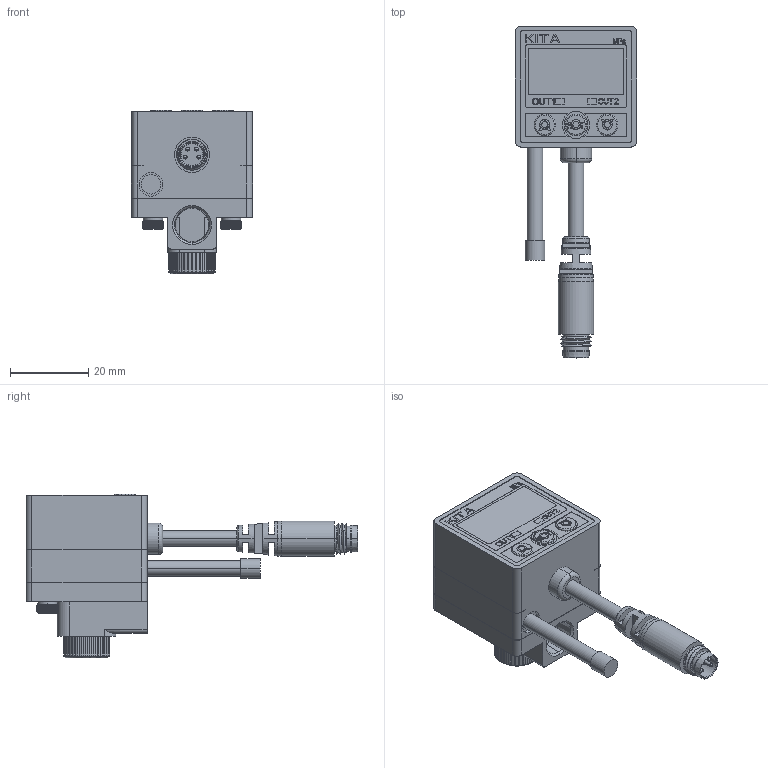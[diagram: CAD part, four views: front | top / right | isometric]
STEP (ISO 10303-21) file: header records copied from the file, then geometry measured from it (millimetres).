
FILE_DESCRIPTION((''),'2;1');
FILE_NAME('KP25_QD','2019-07-04T',('Stark'),(''),'CREO PARAMETRIC BY PTC INC, 2014500','CREO PARAMETRIC BY PTC INC, 2014500','');
FILE_SCHEMA(('CONFIG_CONTROL_DESIGN'));
Products named in the file (1): KP25_QD
Bounding box: 31 x 85 x 42 mm (x, y, z)
Volume: 30682 mm3; surface area: 9067.6 mm2
Topology: 2 solids, 4 shells, 1342 faces, 3560 edges, 2285 vertices
Faces by surface type: plane 734, cylinder 292, bspline 200, cone 92, torus 14, sphere 8, extrusion 2
Entity records: 56344 total; most frequent: CARTESIAN_POINT 24811, ORIENTED_EDGE 7100, DIRECTION 5692, EDGE_CURVE 3550, VERTEX_POINT 2285, VECTOR 2076, LINE 2074, AXIS2_PLACEMENT_3D 1808
